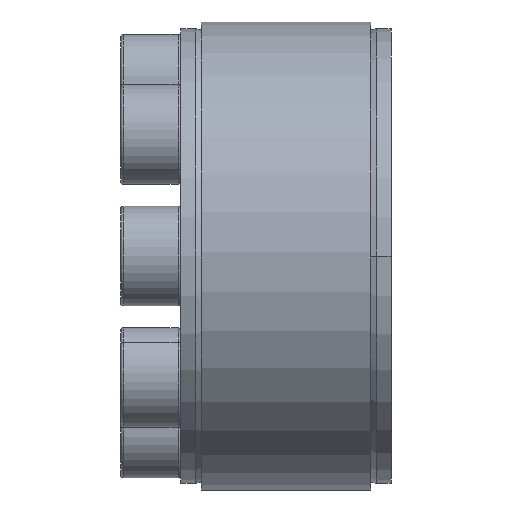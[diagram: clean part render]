
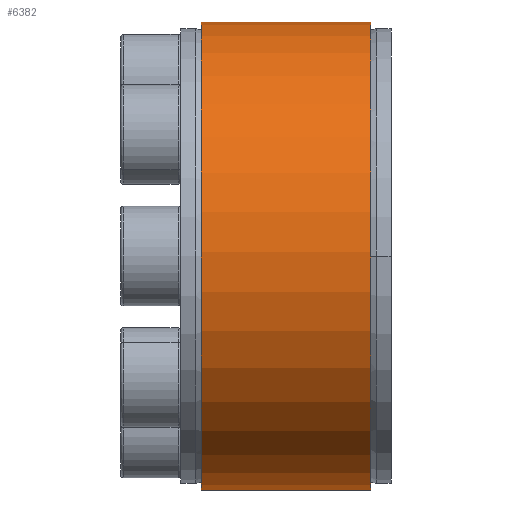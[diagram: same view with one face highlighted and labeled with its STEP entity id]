
A CAD part, front view. The second image highlights one B-rep face of the part: STEP entity #6382.
In plain terms, the highlighted cylindrical face has radius 23.5 mm (diameter 47 mm), a partial arc.
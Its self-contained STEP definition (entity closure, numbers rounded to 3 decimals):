
#28 = LINE ( 'NONE', #1995, #2725 ) ;
#60 = EDGE_CURVE ( 'NONE', #6351, #1794, #5700, .T. ) ;
#306 = CARTESIAN_POINT ( 'NONE',  ( 8.5, 0., 0. ) ) ;
#502 = CARTESIAN_POINT ( 'NONE',  ( 8.5, 0., 23.5 ) ) ;
#892 = CYLINDRICAL_SURFACE ( 'NONE', #1891, 23.5 ) ;
#1038 = CIRCLE ( 'NONE', #1913, 23.5 ) ;
#1066 = EDGE_CURVE ( 'NONE', #1278, #6351, #1038, .T. ) ;
#1278 = VERTEX_POINT ( 'NONE', #3337 ) ;
#1794 = VERTEX_POINT ( 'NONE', #2402 ) ;
#1891 = AXIS2_PLACEMENT_3D ( 'NONE', #5903, #3752, #2697 ) ;
#1913 = AXIS2_PLACEMENT_3D ( 'NONE', #306, #3669, #5618 ) ;
#1994 = VERTEX_POINT ( 'NONE', #2659 ) ;
#1995 = CARTESIAN_POINT ( 'NONE',  ( -5.616, -0.825, -23.486 ) ) ;
#2402 = CARTESIAN_POINT ( 'NONE',  ( -8.5, 0., 23.5 ) ) ;
#2659 = CARTESIAN_POINT ( 'NONE',  ( -8.5, -0.825, -23.486 ) ) ;
#2697 = DIRECTION ( 'NONE',  ( 0., 0., 1. ) ) ;
#2725 = VECTOR ( 'NONE', #6085, 1000. ) ;
#2867 = EDGE_CURVE ( 'NONE', #1994, #1794, #3524, .T. ) ;
#3172 = DIRECTION ( 'NONE',  ( 0., 0., 1. ) ) ;
#3324 = ORIENTED_EDGE ( 'NONE', *, *, #1066, .T. ) ;
#3337 = CARTESIAN_POINT ( 'NONE',  ( 8.5, -0.825, -23.486 ) ) ;
#3524 = CIRCLE ( 'NONE', #5148, 23.5 ) ;
#3669 = DIRECTION ( 'NONE',  ( -1., 0., 0. ) ) ;
#3752 = DIRECTION ( 'NONE',  ( -1., 0., 0. ) ) ;
#3953 = FACE_OUTER_BOUND ( 'NONE', #4404, .T. ) ;
#4106 = VECTOR ( 'NONE', #4607, 1000. ) ;
#4404 = EDGE_LOOP ( 'NONE', ( #3324, #5214, #5655, #6551 ) ) ;
#4536 = EDGE_CURVE ( 'NONE', #1994, #1278, #28, .T. ) ;
#4607 = DIRECTION ( 'NONE',  ( -1., 0., 0. ) ) ;
#4844 = CARTESIAN_POINT ( 'NONE',  ( -8.5, 0., 0. ) ) ;
#4845 = DIRECTION ( 'NONE',  ( -1., 0., 0. ) ) ;
#5148 = AXIS2_PLACEMENT_3D ( 'NONE', #4844, #4845, #3172 ) ;
#5214 = ORIENTED_EDGE ( 'NONE', *, *, #60, .T. ) ;
#5618 = DIRECTION ( 'NONE',  ( 0., 0., 1. ) ) ;
#5655 = ORIENTED_EDGE ( 'NONE', *, *, #2867, .F. ) ;
#5700 = LINE ( 'NONE', #6071, #4106 ) ;
#5903 = CARTESIAN_POINT ( 'NONE',  ( -5.616, 0., 0. ) ) ;
#6071 = CARTESIAN_POINT ( 'NONE',  ( -5.616, 0., 23.5 ) ) ;
#6085 = DIRECTION ( 'NONE',  ( 1., 0., 0. ) ) ;
#6351 = VERTEX_POINT ( 'NONE', #502 ) ;
#6382 = ADVANCED_FACE ( 'NONE', ( #3953 ), #892, .T. ) ;
#6551 = ORIENTED_EDGE ( 'NONE', *, *, #4536, .T. ) ;
